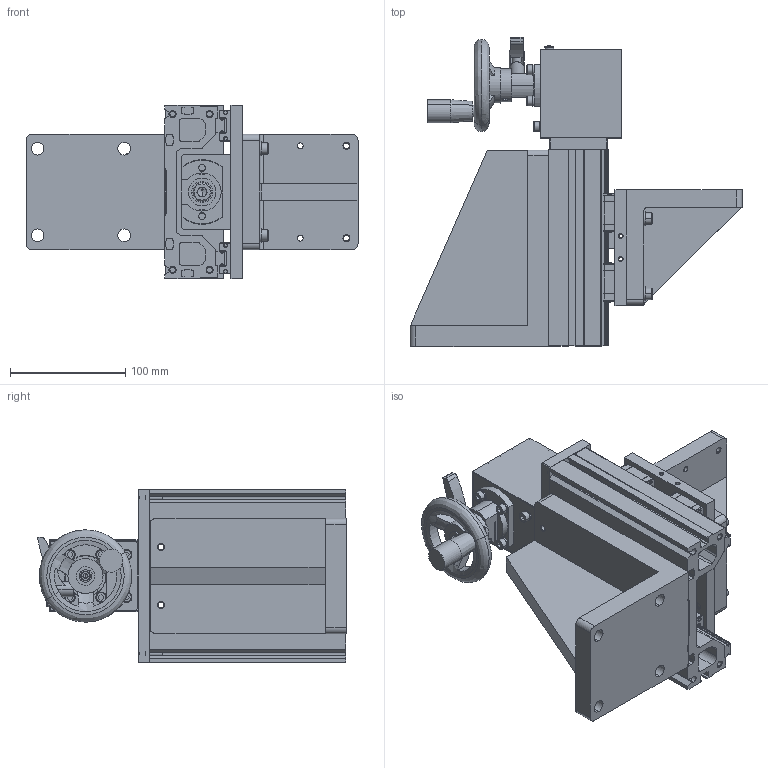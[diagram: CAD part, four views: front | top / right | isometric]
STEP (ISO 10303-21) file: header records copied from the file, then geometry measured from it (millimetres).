
FILE_DESCRIPTION (( 'STEP AP203' ), '1' );
FILE_NAME ('PT-SD170C.STEP', '2022-04-10T08:02:58', ( '' ), ( '' ), 'SwSTEP 2.0', 'SolidWorks 2017', '' );
FILE_SCHEMA (( 'CONFIG_CONTROL_DESIGN' ));
Length unit declared in the file: millimetre
Products named in the file (1): PT-SD170C
Bounding box: 287.5 x 267.5 x 150 mm (x, y, z)
Surface area: 423033.6 mm2 (no closed solid volume)
Topology: 0 solids, 88 shells, 1045 faces, 4154 edges, 3161 vertices
Faces by surface type: plane 572, cylinder 302, cone 155, bspline 16
Entity records: 44555 total; most frequent: CARTESIAN_POINT 9507, DIRECTION 7409, ORIENTED_EDGE 6253, EDGE_CURVE 4132, VERTEX_POINT 3159, VECTOR 2783, LINE 2783, AXIS2_PLACEMENT_3D 2313
